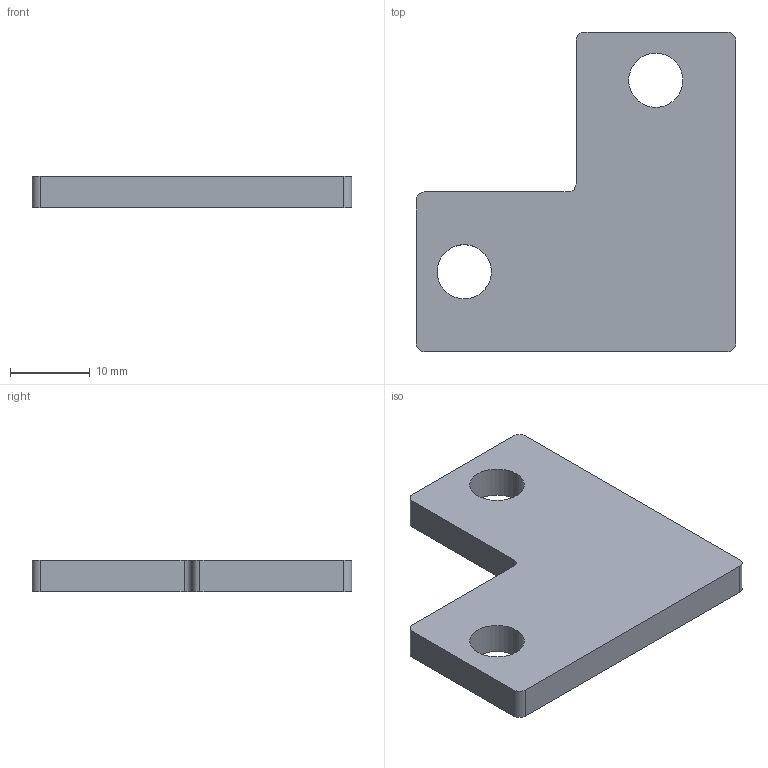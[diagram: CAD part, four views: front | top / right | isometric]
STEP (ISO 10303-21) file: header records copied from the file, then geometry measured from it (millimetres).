
FILE_DESCRIPTION (( 'STEP AP214' ), '1' );
FILE_NAME ('FBRW 20.step', '2017-04-05T08:02:58', ( '' ), ( '' ), 'SwSTEP 2.0', 'SolidWorks 2015', '' );
FILE_SCHEMA (( 'AUTOMOTIVE_DESIGN' ));
Length unit declared in the file: millimetre
Products named in the file (1): FBRW 20
Bounding box: 40 x 40 x 4 mm (x, y, z)
Volume: 4506 mm3; surface area: 3053.6 mm2
Topology: 1 solids, 1 shells, 18 faces, 48 edges, 32 vertices
Faces by surface type: cylinder 10, plane 8
Entity records: 658 total; most frequent: DIRECTION 106, CARTESIAN_POINT 99, ORIENTED_EDGE 96, EDGE_CURVE 48, AXIS2_PLACEMENT_3D 39, VERTEX_POINT 32, LINE 28, VECTOR 28
